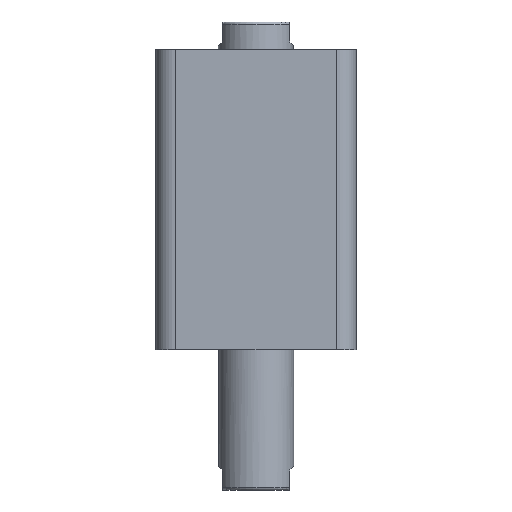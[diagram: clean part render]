
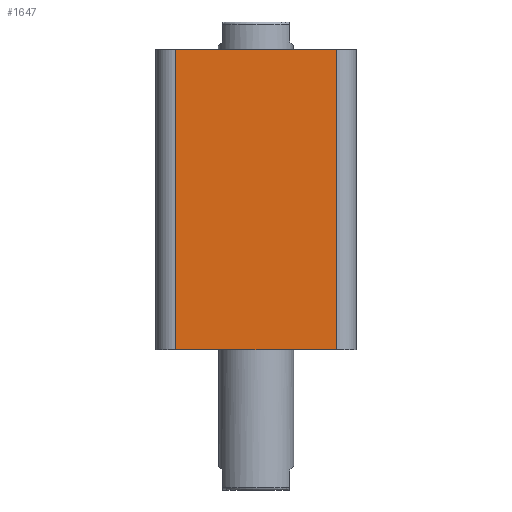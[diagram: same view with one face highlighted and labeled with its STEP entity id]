
A CAD part, front view. The second image highlights one B-rep face of the part: STEP entity #1647.
In plain terms, the highlighted planar face has unit normal (0, -1, 0).
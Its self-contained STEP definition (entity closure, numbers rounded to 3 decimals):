
#94 = VERTEX_POINT ( 'NONE', #1767 ) ;
#95 = VERTEX_POINT ( 'NONE', #1784 ) ;
#495 = LINE ( 'NONE', #2511, #498 ) ;
#496 = LINE ( 'NONE', #2510, #500 ) ;
#498 = VECTOR ( 'NONE', #2494, 1000. ) ;
#499 = LINE ( 'NONE', #2516, #502 ) ;
#500 = VECTOR ( 'NONE', #2515, 1000. ) ;
#501 = LINE ( 'NONE', #2518, #504 ) ;
#502 = VECTOR ( 'NONE', #2517, 1000. ) ;
#504 = VECTOR ( 'NONE', #2519, 1000. ) ;
#831 = FACE_OUTER_BOUND ( 'NONE', #1554, .T. ) ;
#1154 = EDGE_CURVE ( 'NONE', #95, #2910, #495, .T. ) ;
#1155 = EDGE_CURVE ( 'NONE', #94, #95, #496, .T. ) ;
#1156 = EDGE_CURVE ( 'NONE', #1727, #94, #499, .T. ) ;
#1157 = EDGE_CURVE ( 'NONE', #1727, #2910, #501, .T. ) ;
#1437 = AXIS2_PLACEMENT_3D ( 'NONE', #2020, #2024, #2025 ) ;
#1554 = EDGE_LOOP ( 'NONE', ( #2921, #2922, #2923, #2924 ) ) ;
#1647 = ADVANCED_FACE ( 'NONE', ( #831 ), #2022, .F. ) ;
#1727 = VERTEX_POINT ( 'NONE', #2086 ) ;
#1767 = CARTESIAN_POINT ( 'NONE',  ( -32., -40., 0. ) ) ;
#1784 = CARTESIAN_POINT ( 'NONE',  ( 32., -40., 0. ) ) ;
#2020 = CARTESIAN_POINT ( 'NONE',  ( -40., -40., 120. ) ) ;
#2022 = PLANE ( 'NONE',  #1437 ) ;
#2024 = DIRECTION ( 'NONE',  ( 0., 1., 0. ) ) ;
#2025 = DIRECTION ( 'NONE',  ( 0., 0., 1. ) ) ;
#2086 = CARTESIAN_POINT ( 'NONE',  ( -32., -40., 120. ) ) ;
#2308 = CARTESIAN_POINT ( 'NONE',  ( 32., -40., 120. ) ) ;
#2494 = DIRECTION ( 'NONE',  ( 0., 0., 1. ) ) ;
#2510 = CARTESIAN_POINT ( 'NONE',  ( -40., -40., 0. ) ) ;
#2511 = CARTESIAN_POINT ( 'NONE',  ( 32., -40., 120. ) ) ;
#2515 = DIRECTION ( 'NONE',  ( 1., 0., 0. ) ) ;
#2516 = CARTESIAN_POINT ( 'NONE',  ( -32., -40., 120. ) ) ;
#2517 = DIRECTION ( 'NONE',  ( 0., 0., -1. ) ) ;
#2518 = CARTESIAN_POINT ( 'NONE',  ( -40., -40., 120. ) ) ;
#2519 = DIRECTION ( 'NONE',  ( 1., 0., 0. ) ) ;
#2910 = VERTEX_POINT ( 'NONE', #2308 ) ;
#2921 = ORIENTED_EDGE ( 'NONE', *, *, #1157, .F. ) ;
#2922 = ORIENTED_EDGE ( 'NONE', *, *, #1156, .T. ) ;
#2923 = ORIENTED_EDGE ( 'NONE', *, *, #1155, .T. ) ;
#2924 = ORIENTED_EDGE ( 'NONE', *, *, #1154, .T. ) ;
